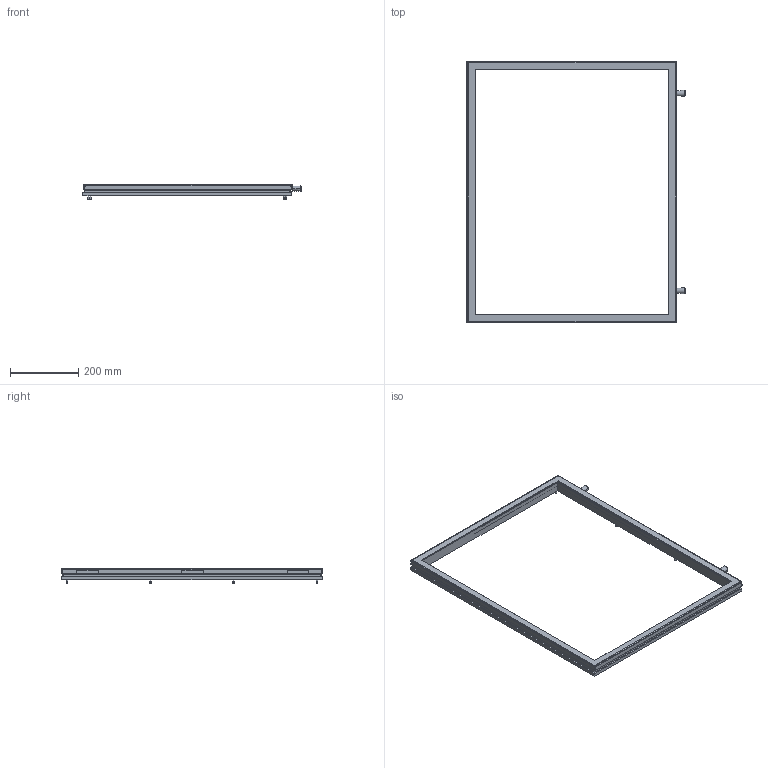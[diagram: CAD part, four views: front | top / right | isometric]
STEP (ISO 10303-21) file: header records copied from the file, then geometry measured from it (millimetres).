
FILE_DESCRIPTION((''),'1');
FILE_NAME('6','2001-04-18T',('jlue'),(''),'PRO/ENGINEER BY PARAMETRIC TECHNOLOGY CORPORATION, 9846','PRO/ENGINEER BY PARAMETRIC TECHNOLOGY CORPORATION, 9846','');
FILE_SCHEMA(('CONFIG_CONTROL_DESIGN'));
Length unit declared in the file: inch
Products named in the file (1): 6
Bounding box: 636.98 x 762 x 45.4 mm (x, y, z)
Surface area: 473573.1 mm2 (no closed solid volume)
Topology: 0 solids, 0 shells, 147 faces, 745 edges, 754 vertices
Faces by surface type: plane 75, cylinder 44, cone 24, sphere 4
Entity records: 3814 total; most frequent: DIRECTION 785, COMPOSITE_CURVE_SEGMENT 720, CARTESIAN_POINT 522, TRIMMED_CURVE 375, AXIS2_PLACEMENT_3D 263, VECTOR 259, LINE 259, CURVE_BOUNDED_SURFACE 147
